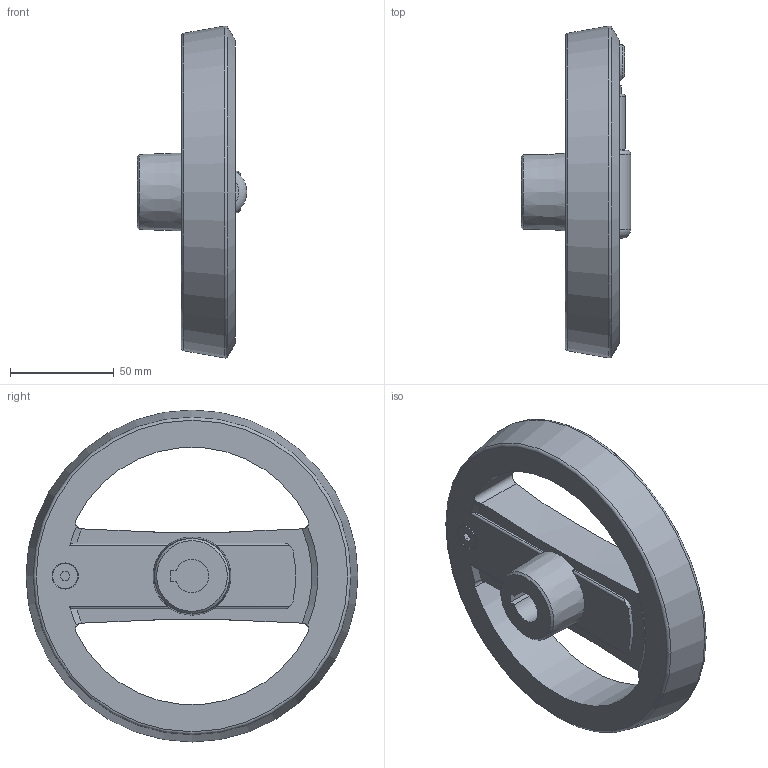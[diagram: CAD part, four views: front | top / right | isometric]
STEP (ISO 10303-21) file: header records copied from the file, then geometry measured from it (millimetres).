
FILE_DESCRIPTION( ( 'STEP AP203' ), '1' );
FILE_NAME( 'C:/Temp/Ganter_Step_05_03_2020/data/1_3/gn_924_7/gn_924_7_k/Handwheel with retractable handle GN 924.7-160-K16-R-SW (unactivated).stp', '2020-03-05T10:42:05', ( 'License CC BY-ND 4.0' ), ( 'CADENAS' ), ' ', 'PARTsolutions', ' ' );
FILE_SCHEMA( ( 'CONFIG_CONTROL_DESIGN' ) );
Length unit declared in the file: millimetre
Products named in the file (3): Handwheel with retractable handle GN 924.7-160-K16-R-SW (unactivated); _Umleggriff-Handrad GN 924.7-160-K16-R-SW-1; _Umleggriff-Handrad GN 924.7-160-K16-R-SW (0)-2
Assembly tree (2 placements, depth 2):
  Handwheel with retractable handle GN 924.7-160-K16-R-SW (unactivated)
    _Umleggriff-Handrad GN 924.7-160-K16-R-SW-1
    _Umleggriff-Handrad GN 924.7-160-K16-R-SW (0)-2
Bounding box: 52.7 x 159.68 x 159.68 mm (x, y, z)
Volume: 292771.6 mm3; surface area: 66141.4 mm2
Topology: 2 solids, 2 shells, 109 faces, 281 edges, 181 vertices
Faces by surface type: plane 45, cylinder 42, cone 12, torus 8, sphere 2
Full cylindrical faces by diameter (mm): 4 x4, 5 x1, 8 x1, 12 x1, 15 x1, 18.5 x1, 20 x1, 24 x1, 25 x1, 26.6 x1
Entity records: 3602 total; most frequent: CARTESIAN_POINT 999, DIRECTION 518, ORIENTED_EDGE 486, EDGE_CURVE 243, AXIS2_PLACEMENT_3D 214, VERTEX_POINT 175, EDGE_LOOP 151, FACE_OUTER_BOUND 129
